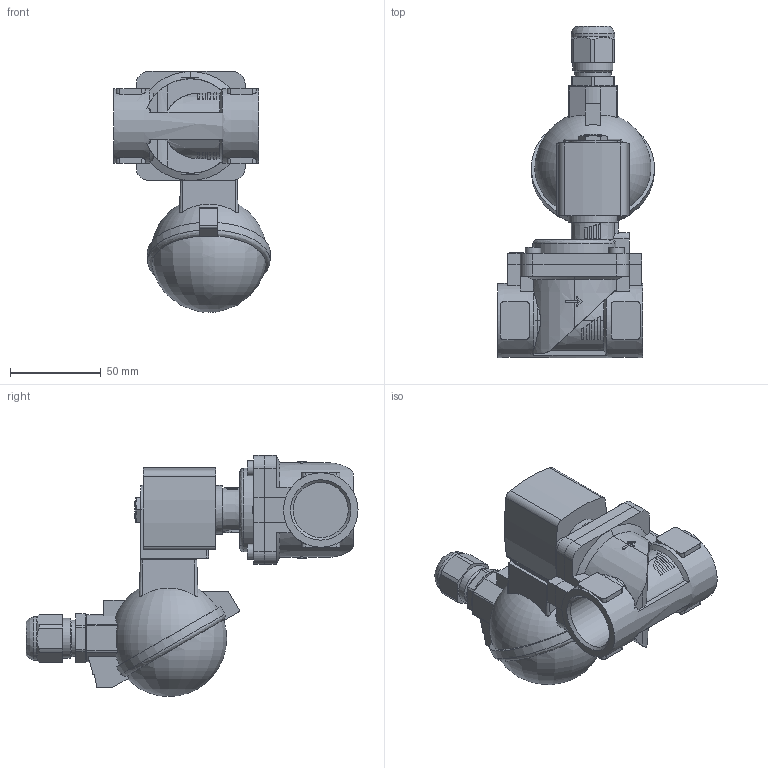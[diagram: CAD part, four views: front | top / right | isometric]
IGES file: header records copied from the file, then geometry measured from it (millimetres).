
Start section: Data from Parasolid IGES Translator 26.0.171, Copyright(c) 2006 Siemens PLM Software. All Rights Reserved.
Global section: file name: 6281-387035-2_2-Way_Solenoid_Valve__Servo-assisted__General_Purpose.igs; native system: By Siemens PLM Incorporated; preprocessor: XPlus GENERIC/IGES 26.0.171; author: Noname; organization: Noname; date: 20240821.222433; units: millimetre
Bounding box: 86.43 x 182.8 x 132.7 mm (x, y, z)
Surface area: 70011.4 mm2 (no closed solid volume)
Topology: 0 solids, 0 shells, 411 faces, 2185 edges, 2166 vertices
Faces by surface type: extrusion 241, revolution 170
